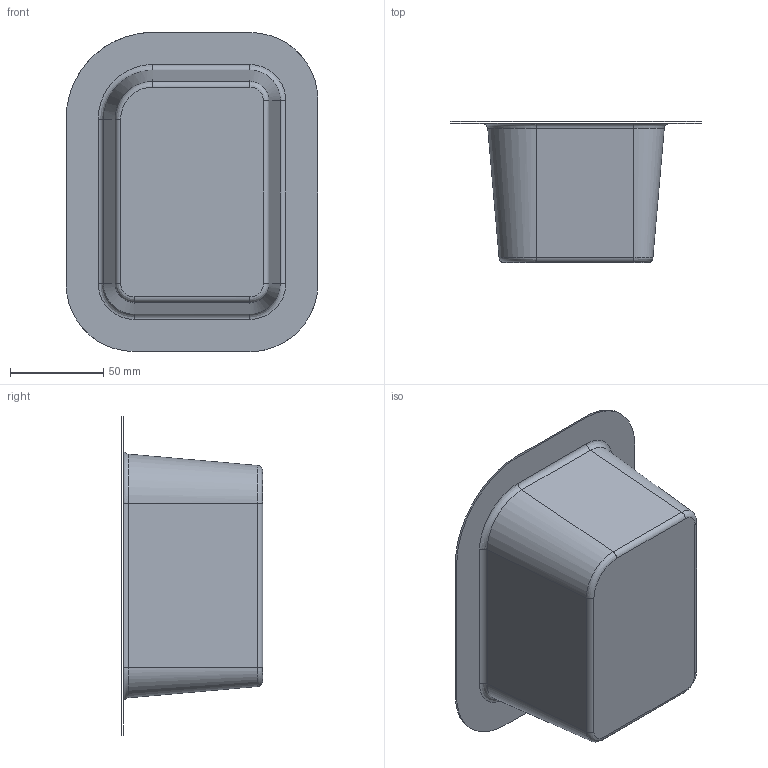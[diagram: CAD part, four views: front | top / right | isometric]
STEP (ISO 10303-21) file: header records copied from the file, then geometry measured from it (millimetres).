
FILE_DESCRIPTION(('CATIA V5 STEP Exchange'),'2;1');
FILE_NAME('C:\_Andres\UNIVERSIDAD\IQS\ASIGNATURAS\DAO\Controles\1617\c3\2inicio\Marinetto_Rohr_control3_v18.stp','2017-02-17T14:22:08+00:00',('none'),('none'),'CATIA Version 5-6 Release 2014 SP1 HF18','CATIA V5 STEP AP203','none');
FILE_SCHEMA(('CONFIG_CONTROL_DESIGN'));
Length unit declared in the file: millimetre
Products named in the file (1): Marinetto_Rohr_control3_v18
Bounding box: 135.07 x 75.71 x 171.07 mm (x, y, z)
Surface area: 70052.6 mm2 (no closed solid volume)
Topology: 0 solids, 2 shells, 27 faces, 80 edges, 57 vertices
Faces by surface type: bspline 16, cylinder 8, plane 3
Entity records: 2132 total; most frequent: CARTESIAN_POINT 1536, ORIENTED_EDGE 128, EDGE_CURVE 72, B_SPLINE_CURVE_WITH_KNOTS 54, DIRECTION 50, VERTEX_POINT 48, EDGE_LOOP 28, ADVANCED_FACE 27
